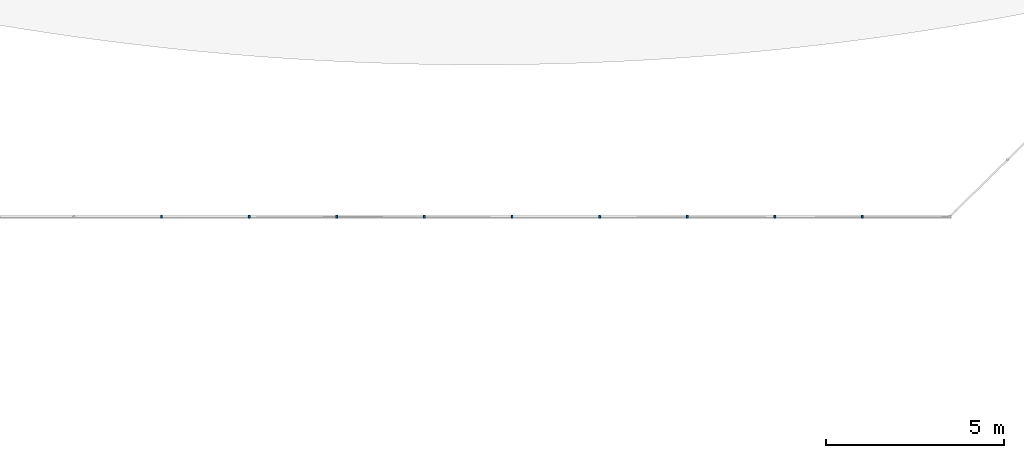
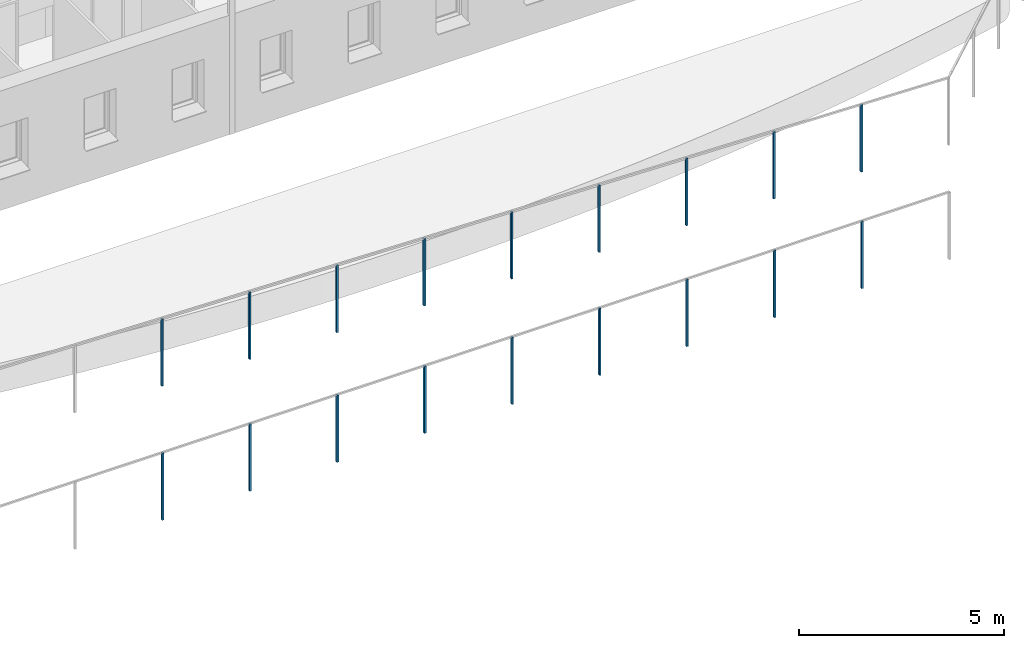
# One storey, part 56 of 91: 18 building element parts, 2 elements without a shape of their own.
"""IFC2X3 building model written with IfcOpenShell, lengths in metres."""

from ifc_helpers import new_model, entity, si_unit, converted_unit, derived_unit, money_unit, direction, frame, origin_with_axes, place, context, subcontext, project, spatial, faceted_brep, material, type_object, element, aggregate, save


model = new_model("IFC2X3")

# Units and contexts
model_context = context("Model", 3, precision=1e-05, world=origin_with_axes(), true_north=direction((0.0, 1.0)))
body_context = subcontext(model_context, "Body", "Model", "MODEL_VIEW")
ifc_project = project(units=[si_unit("LENGTHUNIT", "METRE"), si_unit("AREAUNIT", "SQUARE_METRE"), si_unit("VOLUMEUNIT", "CUBIC_METRE"), converted_unit("PLANEANGLEUNIT", "DEGREE", entity("IfcPlaneAngleMeasure", 0.0174532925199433), si_unit("PLANEANGLEUNIT", "RADIAN"), dimensions=[0, 0, 0, 0, 0, 0, 0]), money_unit("EUR"), converted_unit("TIMEUNIT", "Year", entity("IfcTimeMeasure", 31557600.0), si_unit("TIMEUNIT", "SECOND"), dimensions=[0, 0, 1, 0, 0, 0, 0]), si_unit("MASSUNIT", "GRAM", prefix="KILO"), si_unit("THERMODYNAMICTEMPERATUREUNIT", "DEGREE_CELSIUS"), si_unit("LUMINOUSINTENSITYUNIT", "LUMEN"), si_unit("ENERGYUNIT", "JOULE", prefix="MEGA"), derived_unit("THERMALCONDUCTANCEUNIT", [(si_unit("POWERUNIT", "WATT"), 1), (si_unit("LENGTHUNIT", "METRE"), -1), (si_unit("THERMODYNAMICTEMPERATUREUNIT", "KELVIN"), -1)]), derived_unit("SPECIFICHEATCAPACITYUNIT", [(si_unit("ENERGYUNIT", "JOULE"), 1), (si_unit("MASSUNIT", "GRAM", prefix="KILO"), -1), (si_unit("THERMODYNAMICTEMPERATUREUNIT", "KELVIN"), -1)]), derived_unit("MASSDENSITYUNIT", [(si_unit("MASSUNIT", "GRAM", prefix="KILO"), 1), (si_unit("VOLUMEUNIT", "CUBIC_METRE"), -1)])], contexts=[model_context])

# Site, building, storey
site_placement = place(None, origin_with_axes())
site = spatial("IfcSite", under=ifc_project, at=site_placement, Name="Site", CompositionType="ELEMENT")
building_placement = place(site_placement, origin_with_axes())
building = spatial("IfcBuilding", under=site, at=building_placement, Name="Bâtiment", CompositionType="ELEMENT")
storey_placement = place(building_placement, origin_with_axes())
storey = spatial("IfcBuildingStorey", under=building, at=storey_placement, Name="RDC", CompositionType="ELEMENT", Elevation=0.0)

# Proxy, building element parts
building_element_proxy_type = type_object("IfcBuildingElementProxyType", Name="Type de garde-corps", PredefinedType="NOTDEFINED")
proxy_1_placement = place(storey_placement, frame((79.63337255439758, 3.614023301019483, -2.37161404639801), z_axis=(0.0, 0.0, 1.0), x_axis=(1.0, 0.0, 0.0)))
proxy_1 = element("IfcBuildingElementProxy", 1, at=proxy_1_placement, inside=storey, type_object=building_element_proxy_type, Name="RAMPE-004")
ifc_material = material(Name="Acier Galva")
building_element_part_1_placement = place(proxy_1_placement, origin_with_axes())
building_element_part_1 = element("IfcBuildingElementPart", 2, at=building_element_part_1_placement, material=ifc_material, Name="Acier Galva", context=body_context, shape_type="Brep", body=[
    faceted_brep([(-47.65037986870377, -41.495928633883, 3.979999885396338), (-47.65037986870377, -41.42992863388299, 3.979999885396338), (-47.65037986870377, -41.42992863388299, 5.979999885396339), (-47.65037986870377, -41.495928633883, 5.979999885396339), (-47.70037986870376, -41.495928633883, 3.98132083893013), (-47.70037986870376, -41.42992863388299, 3.98132083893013), (-47.70037986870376, -41.42992863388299, 5.981320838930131), (-47.70037986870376, -41.495928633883, 5.981320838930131)], [[[0, 1, 2, 3]], [[0, 4, 5, 1]], [[1, 5, 6, 2]], [[3, 2, 6, 7]], [[4, 0, 3, 7]], [[5, 4, 7, 6]]]),
])
building_element_part_2_placement = place(proxy_1_placement, origin_with_axes())
building_element_part_2 = element("IfcBuildingElementPart", 3, at=building_element_part_2_placement, material=ifc_material, Name="Acier Galva", context=body_context, shape_type="Brep", body=[
    faceted_brep([(-45.18742051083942, -41.495928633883, 3.914930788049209), (-45.18742051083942, -41.42992863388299, 3.914930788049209), (-45.18742051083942, -41.42992863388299, 5.91493078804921), (-45.18742051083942, -41.495928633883, 5.91493078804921), (-45.23742051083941, -41.495928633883, 3.916251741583), (-45.23742051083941, -41.42992863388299, 3.916251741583), (-45.23742051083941, -41.42992863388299, 5.916251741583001), (-45.23742051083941, -41.495928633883, 5.916251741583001)], [[[0, 1, 2, 3]], [[0, 4, 5, 1]], [[1, 5, 6, 2]], [[3, 2, 6, 7]], [[4, 0, 3, 7]], [[5, 4, 7, 6]]]),
])
building_element_part_3_placement = place(proxy_1_placement, origin_with_axes())
building_element_part_3 = element("IfcBuildingElementPart", 4, at=building_element_part_3_placement, material=ifc_material, Name="Acier Galva", context=body_context, shape_type="Brep", body=[
    faceted_brep([(-42.72446115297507, -41.495928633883, 3.849861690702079), (-42.72446115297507, -41.42992863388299, 3.849861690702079), (-42.72446115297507, -41.42992863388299, 5.849861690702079), (-42.72446115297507, -41.495928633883, 5.849861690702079), (-42.77446115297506, -41.495928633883, 3.851182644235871), (-42.77446115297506, -41.42992863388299, 3.851182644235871), (-42.77446115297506, -41.42992863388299, 5.851182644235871), (-42.77446115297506, -41.495928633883, 5.851182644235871)], [[[0, 1, 2, 3]], [[0, 4, 5, 1]], [[1, 5, 6, 2]], [[3, 2, 6, 7]], [[4, 0, 3, 7]], [[5, 4, 7, 6]]]),
])
building_element_part_4_placement = place(proxy_1_placement, origin_with_axes())
building_element_part_4 = element("IfcBuildingElementPart", 5, at=building_element_part_4_placement, material=ifc_material, Name="Acier Galva", context=body_context, shape_type="Brep", body=[
    faceted_brep([(-40.26150179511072, -41.495928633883, 3.78479259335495), (-40.26150179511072, -41.42992863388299, 3.78479259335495), (-40.26150179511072, -41.42992863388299, 5.78479259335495), (-40.26150179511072, -41.495928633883, 5.78479259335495), (-40.31150179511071, -41.495928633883, 3.786113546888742), (-40.31150179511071, -41.42992863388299, 3.786113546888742), (-40.31150179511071, -41.42992863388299, 5.786113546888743), (-40.31150179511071, -41.495928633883, 5.786113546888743)], [[[0, 1, 2, 3]], [[0, 4, 5, 1]], [[1, 5, 6, 2]], [[3, 2, 6, 7]], [[4, 0, 3, 7]], [[5, 4, 7, 6]]]),
])
building_element_part_5_placement = place(proxy_1_placement, origin_with_axes())
building_element_part_5 = element("IfcBuildingElementPart", 6, at=building_element_part_5_placement, material=ifc_material, Name="Acier Galva", context=body_context, shape_type="Brep", body=[
    faceted_brep([(-37.79854243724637, -41.495928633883, 3.719723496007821), (-37.79854243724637, -41.42992863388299, 3.719723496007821), (-37.79854243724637, -41.42992863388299, 5.719723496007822), (-37.79854243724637, -41.495928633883, 5.719723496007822), (-37.84854243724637, -41.495928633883, 3.721044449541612), (-37.84854243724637, -41.42992863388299, 3.721044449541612), (-37.84854243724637, -41.42992863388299, 5.721044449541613), (-37.84854243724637, -41.495928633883, 5.721044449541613)], [[[0, 1, 2, 3]], [[0, 4, 5, 1]], [[1, 5, 6, 2]], [[3, 2, 6, 7]], [[4, 0, 3, 7]], [[5, 4, 7, 6]]]),
])
building_element_part_6_placement = place(proxy_1_placement, origin_with_axes())
building_element_part_6 = element("IfcBuildingElementPart", 7, at=building_element_part_6_placement, material=ifc_material, Name="Acier Galva", context=body_context, shape_type="Brep", body=[
    faceted_brep([(-35.33558307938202, -41.495928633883, 3.654654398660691), (-35.33558307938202, -41.42992863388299, 3.654654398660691), (-35.33558307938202, -41.42992863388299, 5.654654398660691), (-35.33558307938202, -41.495928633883, 5.654654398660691), (-35.38558307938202, -41.495928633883, 3.655975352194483), (-35.38558307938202, -41.42992863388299, 3.655975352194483), (-35.38558307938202, -41.42992863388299, 5.655975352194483), (-35.38558307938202, -41.495928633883, 5.655975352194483)], [[[0, 1, 2, 3]], [[0, 4, 5, 1]], [[1, 5, 6, 2]], [[3, 2, 6, 7]], [[4, 0, 3, 7]], [[5, 4, 7, 6]]]),
])
building_element_part_7_placement = place(proxy_1_placement, origin_with_axes())
building_element_part_7 = element("IfcBuildingElementPart", 8, at=building_element_part_7_placement, material=ifc_material, Name="Acier Galva", context=body_context, shape_type="Brep", body=[
    faceted_brep([(-32.87262372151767, -41.495928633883, 3.589585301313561), (-32.87262372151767, -41.42992863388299, 3.589585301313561), (-32.87262372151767, -41.42992863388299, 5.589585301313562), (-32.87262372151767, -41.495928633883, 5.589585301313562), (-32.92262372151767, -41.495928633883, 3.590906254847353), (-32.92262372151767, -41.42992863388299, 3.590906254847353), (-32.92262372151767, -41.42992863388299, 5.590906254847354), (-32.92262372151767, -41.495928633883, 5.590906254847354)], [[[0, 1, 2, 3]], [[0, 4, 5, 1]], [[1, 5, 6, 2]], [[3, 2, 6, 7]], [[4, 0, 3, 7]], [[5, 4, 7, 6]]]),
])
building_element_part_8_placement = place(proxy_1_placement, origin_with_axes())
building_element_part_8 = element("IfcBuildingElementPart", 9, at=building_element_part_8_placement, material=ifc_material, Name="Acier Galva", context=body_context, shape_type="Brep", body=[
    faceted_brep([(-30.40966436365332, -41.495928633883, 3.524516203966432), (-30.40966436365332, -41.42992863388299, 3.524516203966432), (-30.40966436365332, -41.42992863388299, 5.524516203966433), (-30.40966436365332, -41.495928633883, 5.524516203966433), (-30.45966436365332, -41.495928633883, 3.525837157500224), (-30.45966436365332, -41.42992863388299, 3.525837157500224), (-30.45966436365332, -41.42992863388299, 5.525837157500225), (-30.45966436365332, -41.495928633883, 5.525837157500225)], [[[0, 1, 2, 3]], [[0, 4, 5, 1]], [[1, 5, 6, 2]], [[3, 2, 6, 7]], [[4, 0, 3, 7]], [[5, 4, 7, 6]]]),
])
building_element_part_9_placement = place(proxy_1_placement, origin_with_axes())
building_element_part_9 = element("IfcBuildingElementPart", 10, at=building_element_part_9_placement, material=ifc_material, Name="Acier Galva", context=body_context, shape_type="Brep", body=[
    faceted_brep([(-27.94670500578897, -41.495928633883, 3.459447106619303), (-27.94670500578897, -41.42992863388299, 3.459447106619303), (-27.94670500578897, -41.42992863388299, 5.459447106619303), (-27.94670500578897, -41.495928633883, 5.459447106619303), (-27.99670500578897, -41.495928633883, 3.460768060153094), (-27.99670500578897, -41.42992863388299, 3.460768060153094), (-27.99670500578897, -41.42992863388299, 5.460768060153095), (-27.99670500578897, -41.495928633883, 5.460768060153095)], [[[0, 1, 2, 3]], [[0, 4, 5, 1]], [[1, 5, 6, 2]], [[3, 2, 6, 7]], [[4, 0, 3, 7]], [[5, 4, 7, 6]]]),
])
aggregate(proxy_1, [building_element_part_1, building_element_part_2, building_element_part_3, building_element_part_4, building_element_part_5, building_element_part_6, building_element_part_7, building_element_part_8, building_element_part_9])

proxy_2_placement = place(storey_placement, frame((54.13280691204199, -37.84890533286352, -2.37161404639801), z_axis=(0.0, 0.0, 1.0), x_axis=(1.0, 0.0, 0.0)))
proxy_2 = element("IfcBuildingElementProxy", 11, at=proxy_2_placement, inside=storey, type_object=building_element_proxy_type, Name="RAMPE-004")
building_element_part_10_placement = place(proxy_2_placement, origin_with_axes())
building_element_part_10 = element("IfcBuildingElementPart", 12, at=building_element_part_10_placement, material=ifc_material, Name="Acier Galva", context=body_context, shape_type="Brep", body=[
    faceted_brep([(-2.489240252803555, 0.01299999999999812, 0.0), (-2.489240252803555, -0.05300000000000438, 0.0), (-2.489240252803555, -0.05300000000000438, 2.0), (-2.489240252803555, 0.01299999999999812, 2.0), (-2.439240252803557, 0.01299999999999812, 0.0), (-2.439240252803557, -0.05300000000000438, 0.0), (-2.439240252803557, -0.05300000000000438, 2.0), (-2.439240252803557, 0.01299999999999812, 2.0)], [[[0, 1, 2, 3]], [[0, 4, 5, 1]], [[1, 5, 6, 2]], [[3, 2, 6, 7]], [[4, 0, 3, 7]], [[5, 4, 7, 6]]]),
])
building_element_part_11_placement = place(proxy_2_placement, origin_with_axes())
building_element_part_11 = element("IfcBuildingElementPart", 13, at=building_element_part_11_placement, material=ifc_material, Name="Acier Galva", context=body_context, shape_type="Brep", body=[
    faceted_brep([(-4.953480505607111, 0.01299999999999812, 0.0), (-4.953480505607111, -0.05300000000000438, 0.0), (-4.953480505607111, -0.05300000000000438, 2.0), (-4.953480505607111, 0.01299999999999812, 2.0), (-4.903480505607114, 0.01299999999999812, 0.0), (-4.903480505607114, -0.05300000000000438, 0.0), (-4.903480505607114, -0.05300000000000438, 2.0), (-4.903480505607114, 0.01299999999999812, 2.0)], [[[0, 1, 2, 3]], [[0, 4, 5, 1]], [[1, 5, 6, 2]], [[3, 2, 6, 7]], [[4, 0, 3, 7]], [[5, 4, 7, 6]]]),
])
building_element_part_12_placement = place(proxy_2_placement, origin_with_axes())
building_element_part_12 = element("IfcBuildingElementPart", 14, at=building_element_part_12_placement, material=ifc_material, Name="Acier Galva", context=body_context, shape_type="Brep", body=[
    faceted_brep([(-7.41772075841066, 0.01299999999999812, 0.0), (-7.41772075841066, -0.05300000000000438, 0.0), (-7.41772075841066, -0.05300000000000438, 2.0), (-7.41772075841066, 0.01299999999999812, 2.0), (-7.367720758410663, 0.01299999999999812, 0.0), (-7.367720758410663, -0.05300000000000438, 0.0), (-7.367720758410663, -0.05300000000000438, 2.0), (-7.367720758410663, 0.01299999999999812, 2.0)], [[[0, 1, 2, 3]], [[0, 4, 5, 1]], [[1, 5, 6, 2]], [[3, 2, 6, 7]], [[4, 0, 3, 7]], [[5, 4, 7, 6]]]),
])
building_element_part_13_placement = place(proxy_2_placement, origin_with_axes())
building_element_part_13 = element("IfcBuildingElementPart", 15, at=building_element_part_13_placement, material=ifc_material, Name="Acier Galva", context=body_context, shape_type="Brep", body=[
    faceted_brep([(-9.881961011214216, 0.01299999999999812, 0.0), (-9.881961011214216, -0.05300000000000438, 0.0), (-9.881961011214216, -0.05300000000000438, 2.0), (-9.881961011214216, 0.01299999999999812, 2.0), (-9.831961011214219, 0.01299999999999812, 0.0), (-9.831961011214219, -0.05300000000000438, 0.0), (-9.831961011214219, -0.05300000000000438, 2.0), (-9.831961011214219, 0.01299999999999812, 2.0)], [[[0, 1, 2, 3]], [[0, 4, 5, 1]], [[1, 5, 6, 2]], [[3, 2, 6, 7]], [[4, 0, 3, 7]], [[5, 4, 7, 6]]]),
])
building_element_part_14_placement = place(proxy_2_placement, origin_with_axes())
building_element_part_14 = element("IfcBuildingElementPart", 16, at=building_element_part_14_placement, material=ifc_material, Name="Acier Galva", context=body_context, shape_type="Brep", body=[
    faceted_brep([(-12.34620126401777, 0.01299999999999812, 0.0), (-12.34620126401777, -0.05300000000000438, 0.0), (-12.34620126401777, -0.05300000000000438, 2.0), (-12.34620126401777, 0.01299999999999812, 2.0), (-12.29620126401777, 0.01299999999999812, 0.0), (-12.29620126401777, -0.05300000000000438, 0.0), (-12.29620126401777, -0.05300000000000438, 2.0), (-12.29620126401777, 0.01299999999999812, 2.0)], [[[0, 1, 2, 3]], [[0, 4, 5, 1]], [[1, 5, 6, 2]], [[3, 2, 6, 7]], [[4, 0, 3, 7]], [[5, 4, 7, 6]]]),
])
building_element_part_15_placement = place(proxy_2_placement, origin_with_axes())
building_element_part_15 = element("IfcBuildingElementPart", 17, at=building_element_part_15_placement, material=ifc_material, Name="Acier Galva", context=body_context, shape_type="Brep", body=[
    faceted_brep([(-14.81044151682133, 0.01299999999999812, 0.0), (-14.81044151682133, -0.05300000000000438, 0.0), (-14.81044151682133, -0.05300000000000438, 2.0), (-14.81044151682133, 0.01299999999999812, 2.0), (-14.76044151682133, 0.01299999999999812, 0.0), (-14.76044151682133, -0.05300000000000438, 0.0), (-14.76044151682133, -0.05300000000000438, 2.0), (-14.76044151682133, 0.01299999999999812, 2.0)], [[[0, 1, 2, 3]], [[0, 4, 5, 1]], [[1, 5, 6, 2]], [[3, 2, 6, 7]], [[4, 0, 3, 7]], [[5, 4, 7, 6]]]),
])
building_element_part_16_placement = place(proxy_2_placement, origin_with_axes())
building_element_part_16 = element("IfcBuildingElementPart", 18, at=building_element_part_16_placement, material=ifc_material, Name="Acier Galva", context=body_context, shape_type="Brep", body=[
    faceted_brep([(-17.27468176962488, 0.01299999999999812, 0.0), (-17.27468176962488, -0.05300000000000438, 0.0), (-17.27468176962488, -0.05300000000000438, 2.0), (-17.27468176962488, 0.01299999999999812, 2.0), (-17.22468176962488, 0.01299999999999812, 0.0), (-17.22468176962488, -0.05300000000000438, 0.0), (-17.22468176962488, -0.05300000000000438, 2.0), (-17.22468176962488, 0.01299999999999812, 2.0)], [[[0, 1, 2, 3]], [[0, 4, 5, 1]], [[1, 5, 6, 2]], [[3, 2, 6, 7]], [[4, 0, 3, 7]], [[5, 4, 7, 6]]]),
])
building_element_part_17_placement = place(proxy_2_placement, origin_with_axes())
building_element_part_17 = element("IfcBuildingElementPart", 19, at=building_element_part_17_placement, material=ifc_material, Name="Acier Galva", context=body_context, shape_type="Brep", body=[
    faceted_brep([(-19.73892202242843, 0.01299999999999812, 0.0), (-19.73892202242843, -0.05300000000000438, 0.0), (-19.73892202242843, -0.05300000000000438, 2.0), (-19.73892202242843, 0.01299999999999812, 2.0), (-19.68892202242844, 0.01299999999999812, 0.0), (-19.68892202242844, -0.05300000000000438, 0.0), (-19.68892202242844, -0.05300000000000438, 2.0), (-19.68892202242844, 0.01299999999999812, 2.0)], [[[0, 1, 2, 3]], [[0, 4, 5, 1]], [[1, 5, 6, 2]], [[3, 2, 6, 7]], [[4, 0, 3, 7]], [[5, 4, 7, 6]]]),
])
building_element_part_18_placement = place(proxy_2_placement, origin_with_axes())
building_element_part_18 = element("IfcBuildingElementPart", 20, at=building_element_part_18_placement, material=ifc_material, Name="Acier Galva", context=body_context, shape_type="Brep", body=[
    faceted_brep([(-22.20316227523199, 0.01299999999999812, 0.0), (-22.20316227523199, -0.05300000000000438, 0.0), (-22.20316227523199, -0.05300000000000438, 2.0), (-22.20316227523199, 0.01299999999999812, 2.0), (-22.15316227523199, 0.01299999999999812, 0.0), (-22.15316227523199, -0.05300000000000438, 0.0), (-22.15316227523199, -0.05300000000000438, 2.0), (-22.15316227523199, 0.01299999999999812, 2.0)], [[[0, 1, 2, 3]], [[0, 4, 5, 1]], [[1, 5, 6, 2]], [[3, 2, 6, 7]], [[4, 0, 3, 7]], [[5, 4, 7, 6]]]),
])
aggregate(proxy_2, [building_element_part_10, building_element_part_11, building_element_part_12, building_element_part_13, building_element_part_14, building_element_part_15, building_element_part_16, building_element_part_17, building_element_part_18])

save(model, "model.ifc")
